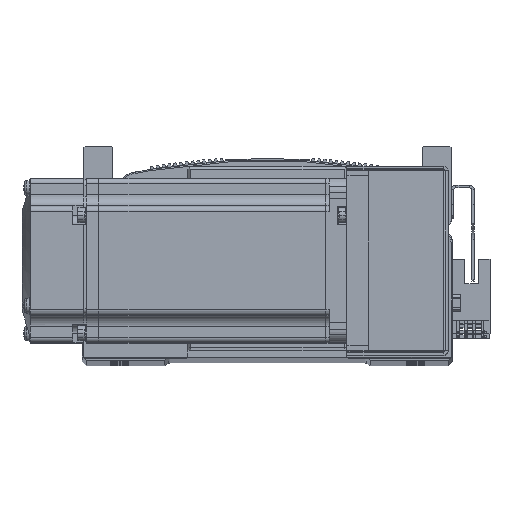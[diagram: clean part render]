
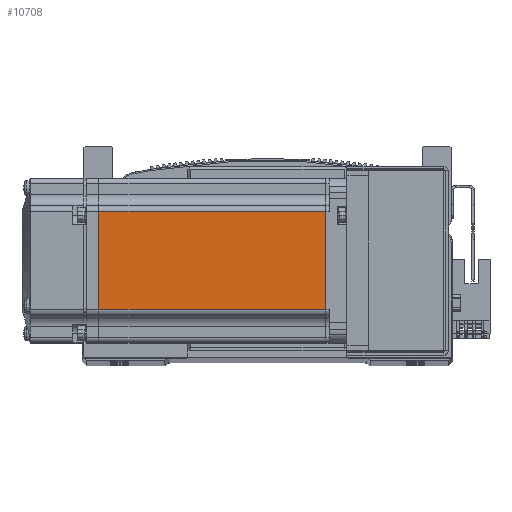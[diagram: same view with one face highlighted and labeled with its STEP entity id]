
A CAD part, top view. The second image highlights one B-rep face of the part: STEP entity #10708.
In plain terms, the highlighted planar face has unit normal (0, 0, 1) as drawn and (0, -1, 0) by its records, which use the part's own axes.
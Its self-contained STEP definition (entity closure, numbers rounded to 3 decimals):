
#1671 = LINE ( 'NONE', #51047, #1707 ) ;
#1701 = LINE ( 'NONE', #51053, #1715 ) ;
#1707 = VECTOR ( 'NONE', #51051, 1000. ) ;
#1715 = VECTOR ( 'NONE', #51052, 1000. ) ;
#1790 = VECTOR ( 'NONE', #21655, 1000. ) ;
#1817 = LINE ( 'NONE', #21665, #1842 ) ;
#1842 = VECTOR ( 'NONE', #21636, 1000. ) ;
#1848 = LINE ( 'NONE', #21631, #1790 ) ;
#10708 = ADVANCED_FACE ( 'NONE', ( #33558 ), #85963, .T. ) ;
#11392 = EDGE_LOOP ( 'NONE', ( #62516, #62579, #62551, #62624 ) ) ;
#21631 = CARTESIAN_POINT ( 'NONE',  ( -6.5, -30., -18. ) ) ;
#21636 = DIRECTION ( 'NONE',  ( -1., 0., 0. ) ) ;
#21655 = DIRECTION ( 'NONE',  ( -1., 0., 0. ) ) ;
#21665 = CARTESIAN_POINT ( 'NONE',  ( -6.5, -30., 18. ) ) ;
#29311 = AXIS2_PLACEMENT_3D ( 'NONE', #85959, #85933, #85934 ) ;
#33558 = FACE_OUTER_BOUND ( 'NONE', #11392, .T. ) ;
#37325 = CARTESIAN_POINT ( 'NONE',  ( -90.45, -30., -18. ) ) ;
#37329 = CARTESIAN_POINT ( 'NONE',  ( -7.75, -30., 18. ) ) ;
#37336 = CARTESIAN_POINT ( 'NONE',  ( -7.75, -30., -18. ) ) ;
#37384 = CARTESIAN_POINT ( 'NONE',  ( -90.45, -30., 18. ) ) ;
#43716 = EDGE_CURVE ( 'NONE', #65550, #65622, #1671, .T. ) ;
#43718 = EDGE_CURVE ( 'NONE', #65722, #65577, #1701, .T. ) ;
#43895 = EDGE_CURVE ( 'NONE', #65550, #65722, #1817, .T. ) ;
#43901 = EDGE_CURVE ( 'NONE', #65622, #65577, #1848, .T. ) ;
#51047 = CARTESIAN_POINT ( 'NONE',  ( -7.75, -30., 0. ) ) ;
#51051 = DIRECTION ( 'NONE',  ( 0., 0., -1. ) ) ;
#51052 = DIRECTION ( 'NONE',  ( 0., 0., -1. ) ) ;
#51053 = CARTESIAN_POINT ( 'NONE',  ( -90.45, -30., 0. ) ) ;
#62516 = ORIENTED_EDGE ( 'NONE', *, *, #43716, .F. ) ;
#62551 = ORIENTED_EDGE ( 'NONE', *, *, #43718, .T. ) ;
#62579 = ORIENTED_EDGE ( 'NONE', *, *, #43895, .T. ) ;
#62624 = ORIENTED_EDGE ( 'NONE', *, *, #43901, .F. ) ;
#65550 = VERTEX_POINT ( 'NONE', #37329 ) ;
#65577 = VERTEX_POINT ( 'NONE', #37325 ) ;
#65622 = VERTEX_POINT ( 'NONE', #37336 ) ;
#65722 = VERTEX_POINT ( 'NONE', #37384 ) ;
#85933 = DIRECTION ( 'NONE',  ( 0., -1., 0. ) ) ;
#85934 = DIRECTION ( 'NONE',  ( 0., 0., -1. ) ) ;
#85959 = CARTESIAN_POINT ( 'NONE',  ( -6.5, -30., -25. ) ) ;
#85963 = PLANE ( 'NONE',  #29311 ) ;
